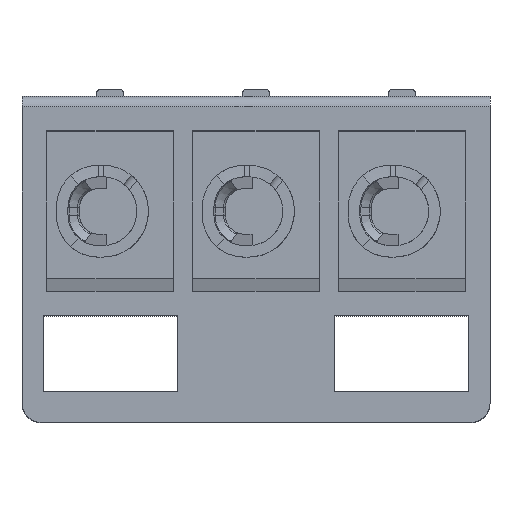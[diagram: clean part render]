
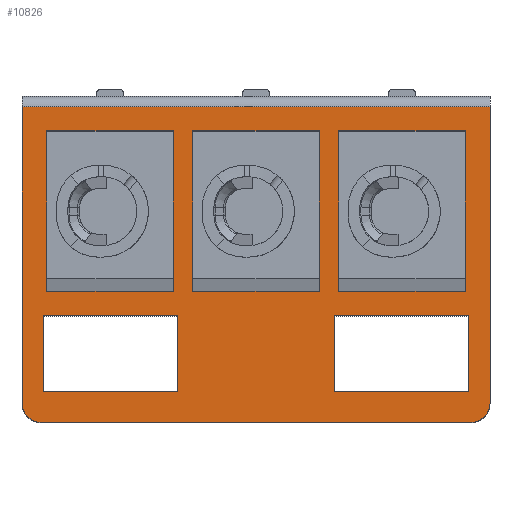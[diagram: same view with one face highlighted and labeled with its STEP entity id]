
A CAD part, top view. The second image highlights one B-rep face of the part: STEP entity #10826.
In plain terms, the highlighted planar face has unit normal (0, 0, 1).
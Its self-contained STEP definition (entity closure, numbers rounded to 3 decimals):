
#185=DIRECTION('',(-1.,0.,0.));
#186=VECTOR('',#185,11.22);
#187=CARTESIAN_POINT('',(18.44,0.,0.));
#188=LINE('',#187,#186);
#189=CARTESIAN_POINT('',(7.22,0.5,0.));
#190=DIRECTION('',(0.,0.,-1.));
#191=DIRECTION('',(0.,-1.,0.));
#192=AXIS2_PLACEMENT_3D('',#189,#190,#191);
#194=DIRECTION('',(0.,1.,0.));
#195=VECTOR('',#194,7.74);
#196=CARTESIAN_POINT('',(6.72,0.5,0.));
#197=LINE('',#196,#195);
#198=DIRECTION('',(1.,0.,0.));
#199=VECTOR('',#198,12.22);
#200=CARTESIAN_POINT('',(6.72,8.24,0.));
#201=LINE('',#200,#199);
#202=CARTESIAN_POINT('',(18.44,0.5,0.));
#203=DIRECTION('',(0.,0.,-1.));
#204=DIRECTION('',(1.,0.,0.));
#205=AXIS2_PLACEMENT_3D('',#202,#203,#204);
#207=DIRECTION('',(-1.,0.,0.));
#208=VECTOR('',#207,3.5);
#209=CARTESIAN_POINT('',(10.77,2.8,0.));
#210=LINE('',#209,#208);
#211=DIRECTION('',(0.,-1.,0.));
#212=VECTOR('',#211,2.);
#213=CARTESIAN_POINT('',(7.27,2.8,0.));
#214=LINE('',#213,#212);
#215=DIRECTION('',(1.,0.,0.));
#216=VECTOR('',#215,3.5);
#217=CARTESIAN_POINT('',(7.27,0.8,0.));
#218=LINE('',#217,#216);
#219=DIRECTION('',(0.,1.,0.));
#220=VECTOR('',#219,2.);
#221=CARTESIAN_POINT('',(10.77,0.8,0.));
#222=LINE('',#221,#220);
#223=DIRECTION('',(-1.,0.,0.));
#224=VECTOR('',#223,3.5);
#225=CARTESIAN_POINT('',(18.39,2.8,0.));
#226=LINE('',#225,#224);
#227=DIRECTION('',(0.,-1.,0.));
#228=VECTOR('',#227,2.);
#229=CARTESIAN_POINT('',(14.89,2.8,0.));
#230=LINE('',#229,#228);
#231=DIRECTION('',(1.,0.,0.));
#232=VECTOR('',#231,3.5);
#233=CARTESIAN_POINT('',(14.89,0.8,0.));
#234=LINE('',#233,#232);
#235=DIRECTION('',(0.,1.,0.));
#236=VECTOR('',#235,2.);
#237=CARTESIAN_POINT('',(18.39,0.8,0.));
#238=LINE('',#237,#236);
#239=DIRECTION('',(-1.,0.,0.));
#240=VECTOR('',#239,3.31);
#241=CARTESIAN_POINT('',(14.485,7.62,0.));
#242=LINE('',#241,#240);
#243=DIRECTION('',(1.,0.,0.));
#244=VECTOR('',#243,3.31);
#245=CARTESIAN_POINT('',(11.175,3.42,0.));
#246=LINE('',#245,#244);
#398=DIRECTION('',(0.,1.,0.));
#399=VECTOR('',#398,7.74);
#400=CARTESIAN_POINT('',(18.94,0.5,0.));
#401=LINE('',#400,#399);
#443=DIRECTION('',(0.,-1.,0.));
#444=VECTOR('',#443,4.2);
#445=CARTESIAN_POINT('',(10.675,7.62,0.));
#446=LINE('',#445,#444);
#455=DIRECTION('',(-1.,0.,0.));
#456=VECTOR('',#455,3.31);
#457=CARTESIAN_POINT('',(10.675,3.42,0.));
#458=LINE('',#457,#456);
#467=DIRECTION('',(0.,1.,0.));
#468=VECTOR('',#467,4.2);
#469=CARTESIAN_POINT('',(7.365,3.42,0.));
#470=LINE('',#469,#468);
#479=DIRECTION('',(1.,0.,0.));
#480=VECTOR('',#479,3.31);
#481=CARTESIAN_POINT('',(7.365,7.62,0.));
#482=LINE('',#481,#480);
#2787=DIRECTION('',(0.,-1.,0.));
#2788=VECTOR('',#2787,4.2);
#2789=CARTESIAN_POINT('',(18.295,7.62,0.));
#2790=LINE('',#2789,#2788);
#2803=DIRECTION('',(1.,0.,0.));
#2804=VECTOR('',#2803,3.31);
#2805=CARTESIAN_POINT('',(14.985,7.62,0.));
#2806=LINE('',#2805,#2804);
#2819=DIRECTION('',(0.,1.,0.));
#2820=VECTOR('',#2819,4.2);
#2821=CARTESIAN_POINT('',(14.985,3.42,0.));
#2822=LINE('',#2821,#2820);
#2827=DIRECTION('',(-1.,0.,0.));
#2828=VECTOR('',#2827,3.31);
#2829=CARTESIAN_POINT('',(18.295,3.42,0.));
#2830=LINE('',#2829,#2828);
#5147=DIRECTION('',(0.,1.,0.));
#5148=VECTOR('',#5147,4.2);
#5149=CARTESIAN_POINT('',(11.175,3.42,0.));
#5150=LINE('',#5149,#5148);
#5159=DIRECTION('',(0.,-1.,0.));
#5160=VECTOR('',#5159,4.2);
#5161=CARTESIAN_POINT('',(14.485,7.62,0.));
#5162=LINE('',#5161,#5160);
#8528=CARTESIAN_POINT('',(6.72,8.24,0.));
#8529=CARTESIAN_POINT('',(18.94,8.24,0.));
#8530=VERTEX_POINT('',#8528);
#8531=VERTEX_POINT('',#8529);
#8532=CARTESIAN_POINT('',(18.44,0.,0.));
#8533=CARTESIAN_POINT('',(7.22,0.,0.));
#8534=VERTEX_POINT('',#8532);
#8535=VERTEX_POINT('',#8533);
#8536=CARTESIAN_POINT('',(6.72,0.5,0.));
#8537=VERTEX_POINT('',#8536);
#8538=CARTESIAN_POINT('',(18.94,0.5,0.));
#8539=VERTEX_POINT('',#8538);
#8540=CARTESIAN_POINT('',(10.77,2.8,0.));
#8541=CARTESIAN_POINT('',(7.27,2.8,0.));
#8542=VERTEX_POINT('',#8540);
#8543=VERTEX_POINT('',#8541);
#8544=CARTESIAN_POINT('',(7.27,0.8,0.));
#8545=VERTEX_POINT('',#8544);
#8546=CARTESIAN_POINT('',(10.77,0.8,0.));
#8547=VERTEX_POINT('',#8546);
#8548=CARTESIAN_POINT('',(10.675,7.62,0.));
#8549=CARTESIAN_POINT('',(10.675,3.42,0.));
#8550=VERTEX_POINT('',#8548);
#8551=VERTEX_POINT('',#8549);
#8552=CARTESIAN_POINT('',(7.365,7.62,0.));
#8553=VERTEX_POINT('',#8552);
#8554=CARTESIAN_POINT('',(7.365,3.42,0.));
#8555=VERTEX_POINT('',#8554);
#8556=CARTESIAN_POINT('',(18.295,7.62,0.));
#8557=CARTESIAN_POINT('',(18.295,3.42,0.));
#8558=VERTEX_POINT('',#8556);
#8559=VERTEX_POINT('',#8557);
#8560=CARTESIAN_POINT('',(14.985,7.62,0.));
#8561=VERTEX_POINT('',#8560);
#8562=CARTESIAN_POINT('',(14.985,3.42,0.));
#8563=VERTEX_POINT('',#8562);
#8564=CARTESIAN_POINT('',(18.39,2.8,0.));
#8565=CARTESIAN_POINT('',(14.89,2.8,0.));
#8566=VERTEX_POINT('',#8564);
#8567=VERTEX_POINT('',#8565);
#8568=CARTESIAN_POINT('',(14.89,0.8,0.));
#8569=VERTEX_POINT('',#8568);
#8570=CARTESIAN_POINT('',(18.39,0.8,0.));
#8571=VERTEX_POINT('',#8570);
#8572=CARTESIAN_POINT('',(14.485,7.62,0.));
#8573=CARTESIAN_POINT('',(11.175,7.62,0.));
#8574=VERTEX_POINT('',#8572);
#8575=VERTEX_POINT('',#8573);
#8576=CARTESIAN_POINT('',(11.175,3.42,0.));
#8577=VERTEX_POINT('',#8576);
#8578=CARTESIAN_POINT('',(14.485,3.42,0.));
#8579=VERTEX_POINT('',#8578);
#10758=CARTESIAN_POINT('',(14.933,4.12,0.));
#10759=DIRECTION('',(0.,0.,1.));
#10760=DIRECTION('',(1.,0.,0.));
#10761=AXIS2_PLACEMENT_3D('',#10758,#10759,#10760);
#10762=PLANE('',#10761);
#10764=ORIENTED_EDGE('',*,*,#10763,.T.);
#10766=ORIENTED_EDGE('',*,*,#10765,.T.);
#10768=ORIENTED_EDGE('',*,*,#10767,.T.);
#10769=ORIENTED_EDGE('',*,*,#10748,.T.);
#10771=ORIENTED_EDGE('',*,*,#10770,.F.);
#10773=ORIENTED_EDGE('',*,*,#10772,.T.);
#10774=EDGE_LOOP('',(#10764,#10766,#10768,#10769,#10771,#10773));
#10775=FACE_OUTER_BOUND('',#10774,.F.);
#10777=ORIENTED_EDGE('',*,*,#10776,.T.);
#10779=ORIENTED_EDGE('',*,*,#10778,.T.);
#10781=ORIENTED_EDGE('',*,*,#10780,.T.);
#10783=ORIENTED_EDGE('',*,*,#10782,.T.);
#10784=EDGE_LOOP('',(#10777,#10779,#10781,#10783));
#10785=FACE_BOUND('',#10784,.F.);
#10787=ORIENTED_EDGE('',*,*,#10786,.F.);
#10789=ORIENTED_EDGE('',*,*,#10788,.F.);
#10791=ORIENTED_EDGE('',*,*,#10790,.F.);
#10793=ORIENTED_EDGE('',*,*,#10792,.F.);
#10794=EDGE_LOOP('',(#10787,#10789,#10791,#10793));
#10795=FACE_BOUND('',#10794,.F.);
#10797=ORIENTED_EDGE('',*,*,#10796,.F.);
#10799=ORIENTED_EDGE('',*,*,#10798,.F.);
#10801=ORIENTED_EDGE('',*,*,#10800,.F.);
#10803=ORIENTED_EDGE('',*,*,#10802,.F.);
#10804=EDGE_LOOP('',(#10797,#10799,#10801,#10803));
#10805=FACE_BOUND('',#10804,.F.);
#10807=ORIENTED_EDGE('',*,*,#10806,.T.);
#10809=ORIENTED_EDGE('',*,*,#10808,.T.);
#10811=ORIENTED_EDGE('',*,*,#10810,.T.);
#10813=ORIENTED_EDGE('',*,*,#10812,.T.);
#10814=EDGE_LOOP('',(#10807,#10809,#10811,#10813));
#10815=FACE_BOUND('',#10814,.F.);
#10817=ORIENTED_EDGE('',*,*,#10816,.T.);
#10819=ORIENTED_EDGE('',*,*,#10818,.F.);
#10821=ORIENTED_EDGE('',*,*,#10820,.T.);
#10823=ORIENTED_EDGE('',*,*,#10822,.F.);
#10824=EDGE_LOOP('',(#10817,#10819,#10821,#10823));
#10825=FACE_BOUND('',#10824,.F.);
#10826=ADVANCED_FACE('',(#10775,#10785,#10795,#10805,#10815,#10825),#10762,.T.);
#193=CIRCLE('',#192,0.5);
#206=CIRCLE('',#205,0.5);
#10748=EDGE_CURVE('',#8530,#8531,#201,.T.);
#10763=EDGE_CURVE('',#8534,#8535,#188,.T.);
#10765=EDGE_CURVE('',#8535,#8537,#193,.T.);
#10767=EDGE_CURVE('',#8537,#8530,#197,.T.);
#10770=EDGE_CURVE('',#8539,#8531,#401,.T.);
#10772=EDGE_CURVE('',#8539,#8534,#206,.T.);
#10776=EDGE_CURVE('',#8542,#8543,#210,.T.);
#10778=EDGE_CURVE('',#8543,#8545,#214,.T.);
#10780=EDGE_CURVE('',#8545,#8547,#218,.T.);
#10782=EDGE_CURVE('',#8547,#8542,#222,.T.);
#10786=EDGE_CURVE('',#8550,#8551,#446,.T.);
#10788=EDGE_CURVE('',#8553,#8550,#482,.T.);
#10790=EDGE_CURVE('',#8555,#8553,#470,.T.);
#10792=EDGE_CURVE('',#8551,#8555,#458,.T.);
#10796=EDGE_CURVE('',#8558,#8559,#2790,.T.);
#10798=EDGE_CURVE('',#8561,#8558,#2806,.T.);
#10800=EDGE_CURVE('',#8563,#8561,#2822,.T.);
#10802=EDGE_CURVE('',#8559,#8563,#2830,.T.);
#10806=EDGE_CURVE('',#8566,#8567,#226,.T.);
#10808=EDGE_CURVE('',#8567,#8569,#230,.T.);
#10810=EDGE_CURVE('',#8569,#8571,#234,.T.);
#10812=EDGE_CURVE('',#8571,#8566,#238,.T.);
#10816=EDGE_CURVE('',#8574,#8575,#242,.T.);
#10818=EDGE_CURVE('',#8577,#8575,#5150,.T.);
#10820=EDGE_CURVE('',#8577,#8579,#246,.T.);
#10822=EDGE_CURVE('',#8574,#8579,#5162,.T.);
